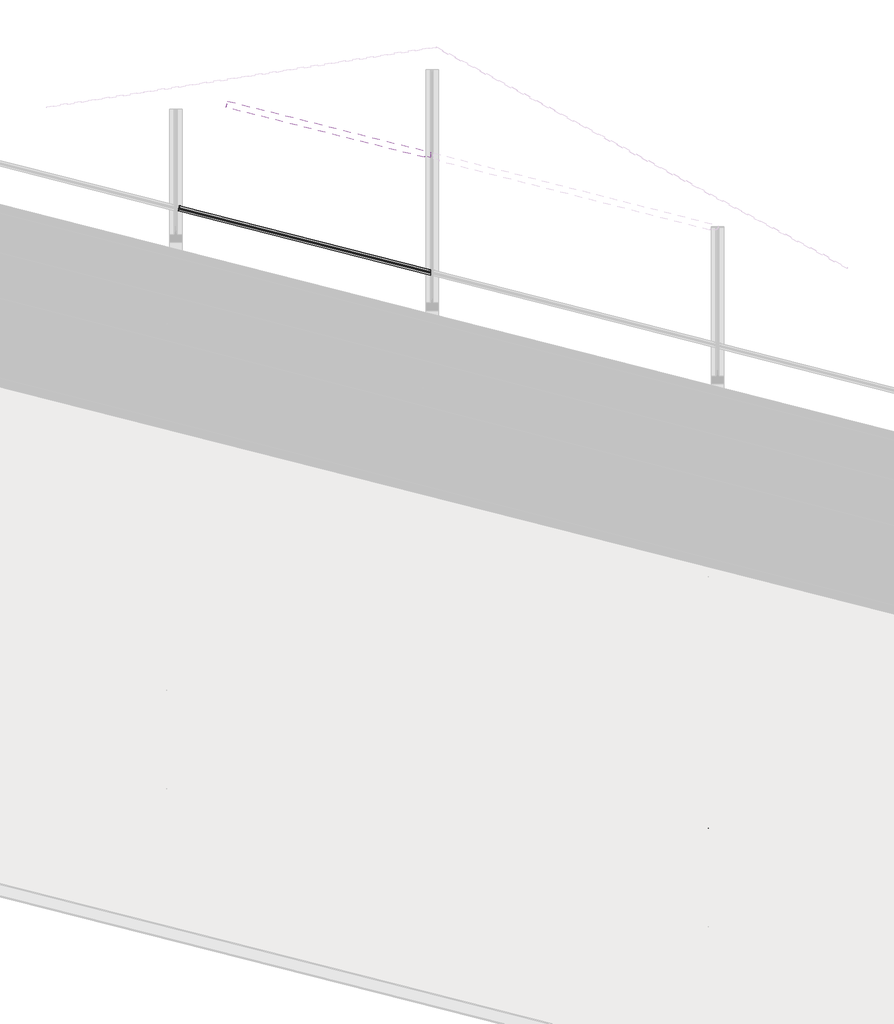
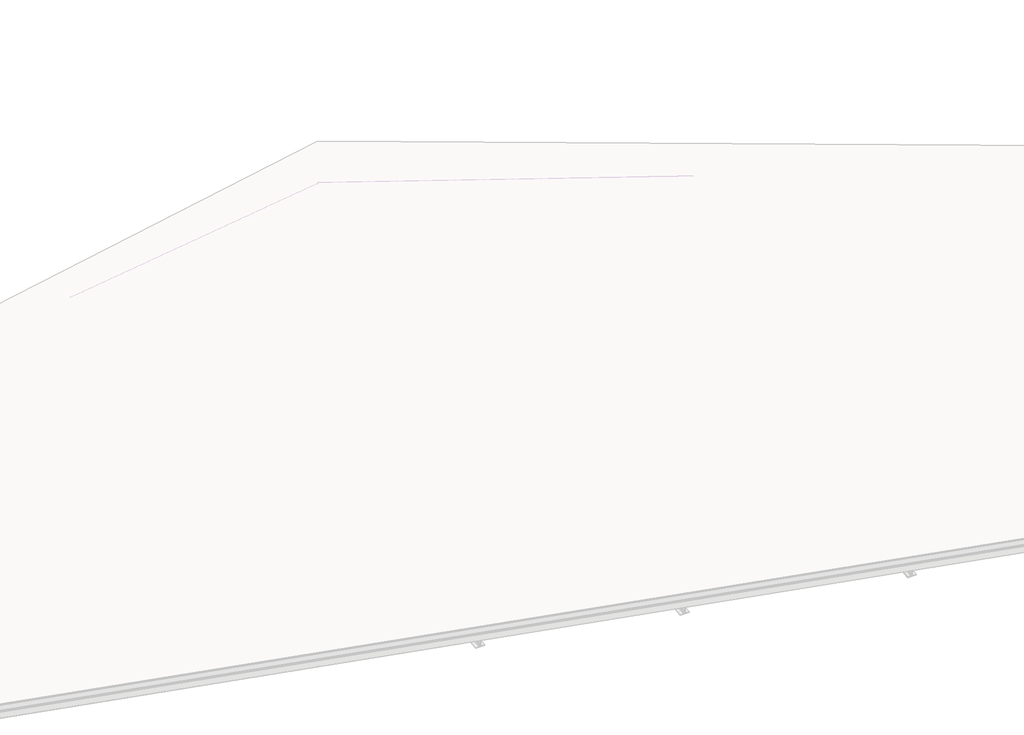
# One storey, part 6 of 10: 4 beams.
"""IFC4 building model written with IfcOpenShell, lengths in millimetres."""

from ifc_helpers import new_model, si_unit, frame, origin, place, context, project, spatial, polyline, circle_curve, ellipse_curve, element, save
from ifc_brep_helpers import plane_surface, cylinder_surface, revolved_surface, advanced_brep

model = new_model("IFC4")

# Units and contexts
model_context = context("Model", 3, world=origin())
ifc_project = project(units=[si_unit("LENGTHUNIT", "METRE", prefix="MILLI")], contexts=[model_context])

# Site, building, storey
site = spatial("IfcSite", under=ifc_project)
building = spatial("IfcBuilding", under=site)
storey = spatial("IfcBuildingStorey", under=building, Name="2 Toiture batiment", Elevation=872910.0)

# Beams
placement = place(None, origin())
element("IfcBeam", 1, ObjectType="IPE : IPE160", at=placement, inside=storey, context=model_context, shape_type="AdvancedBrep", body=[
    advanced_brep(
    [(33097.4031572, 1844.8723003, 873163.6537037), (33097.4031572, 1814.6582385, 873160.0641611), (37390.0284051, 721.8364131, 873163.3943141), (37390.0284051, 752.0504749, 873166.9838566), (33097.4031572, 1852.9583401, 873173.6819462), (37390.0284051, 760.1365147, 873177.0120991), (33187.7031572, 1813.9734126, 873300.0068727), (33187.7031572, 1816.8347422, 873277.4230183), (33098.4031572, 1839.2279107, 873280.0446711), (33097.4031572, 1839.6043729, 873279.0819152), (37390.0284051, 746.4581315, 873284.9726139), (37389.0284051, 746.5832107, 873285.9939693), (37299.7284051, 768.9777467, 873288.6048286), (37299.7284051, 767.1289578, 873303.1969189), (33187.7031572, 1803.6237537, 873307.8448858), (37299.7284051, 756.7792989, 873311.0349321), (33187.7031572, 1773.4096919, 873304.2553433), (37299.7284051, 726.5652371, 873307.4453895), (33187.7031572, 1772.4790929, 873311.6003595), (37299.7284051, 725.6346381, 873314.7904057), (33187.7031572, 1856.4639427, 873321.578071), (37299.7284051, 809.6194879, 873324.7681172), (33187.7031572, 1857.3945417, 873314.2330548), (37299.7284051, 810.5500869, 873317.423101), (33187.7031572, 1827.1804798, 873310.6435122), (37299.7284051, 780.336025, 873313.8335585), (33187.7031572, 1819.0944401, 873300.6152697), (37299.7284051, 772.2499853, 873303.805316), (33187.7031572, 1821.9568757, 873278.0226858), (37299.7284051, 774.100193, 873289.2020273), (37389.0284051, 751.705657, 873286.5911679), (37390.0284051, 751.5805777, 873285.5698126), (37390.0284051, 765.2575421, 873177.6204962), (33097.4031572, 1858.0793675, 873174.2903432), (33097.4031572, 1844.7265064, 873279.6815827), (33098.4031572, 1844.3500442, 873280.6443386), (33097.4031572, 1868.4290265, 873166.4523301), (37390.0284051, 775.6072011, 873169.7824831), (33097.4031572, 1898.6430883, 873170.0418727), (37390.0284051, 805.8212629, 873173.3720256), (33097.4031572, 1899.5736873, 873162.6968565), (37390.0284051, 806.7518619, 873166.0270094), (33097.4031572, 1815.5888375, 873152.7191449), (37390.0284051, 722.7670121, 873156.0492979)],
    [
        (0, 1),
        (1, 2),
        (2, 3),
        (3, 0),
        (4, 0, ellipse_curve(frame((33097.4031572, 1843.7404907, 873172.5868315), z_axis=(-1.0, 0.0, 0.0), x_axis=(0.0, -0.9999953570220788, 0.003047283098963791)), 9.2870764, 9.0)),
        (3, 5, ellipse_curve(frame((37390.0284051, 750.9186654, 873175.9169845), z_axis=(1.0, 0.0, 0.0), x_axis=(0.0, -0.9999953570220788, 0.0030472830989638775)), 9.2870764, 9.0)),
        (5, 4),
        (6, 7),
        (7, 8),
        (8, 9, ellipse_curve(frame((33098.4031572, 1839.3536096, 873279.0525573), z_axis=(-0.24478410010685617, -0.9618880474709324, -0.12186930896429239), x_axis=(0.9688507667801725, -0.2475267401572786, 0.00766189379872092)), 1.0314233, 1.0)),
        (9, 4),
        (5, 10),
        (10, 11, ellipse_curve(frame((37389.0284051, 746.7089102, 873285.0018509), z_axis=(-0.24478410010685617, -0.9618880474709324, -0.12186930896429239), x_axis=(0.9687750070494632, -0.2477549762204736, 0.00961548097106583)), 1.0314282, 1.0)),
        (11, 12),
        (12, 13),
        (13, 6),
        (14, 6, ellipse_curve(frame((33187.7031572, 1804.7555633, 873298.911758), z_axis=(-1.0, 0.0, 0.0), x_axis=(0.0, -0.9999953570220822, 0.003047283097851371)), 9.2870764, 9.0)),
        (13, 15, ellipse_curve(frame((37299.7284051, 757.9111085, 873302.1018042), z_axis=(1.0, 0.0, 0.0), x_axis=(0.0, -0.9999953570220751, 0.0030472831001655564)), 9.2870764, 9.0)),
        (15, 14),
        (16, 14),
        (15, 17),
        (17, 16),
        (18, 16),
        (17, 19),
        (19, 18),
        (20, 18),
        (19, 21),
        (21, 20),
        (22, 20),
        (21, 23),
        (23, 22),
        (24, 22),
        (23, 25),
        (25, 24),
        (26, 24, ellipse_curve(frame((33187.7031572, 1828.3122894, 873301.7103844), z_axis=(-1.0, 0.0, 0.0), x_axis=(0.0, -0.9999953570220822, 0.003047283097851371)), 9.2870764, 9.0)),
        (25, 27, ellipse_curve(frame((37299.7284051, 781.4678346, 873304.9004306), z_axis=(1.0, 0.0, 0.0), x_axis=(0.0, -0.9999953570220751, 0.0030472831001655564)), 9.2870764, 9.0)),
        (27, 26),
        (28, 26),
        (27, 29),
        (29, 30),
        (30, 31, ellipse_curve(frame((37389.0284051, 751.8313564, 873285.5990495), z_axis=(0.24478410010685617, 0.9618880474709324, 0.12186930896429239), x_axis=(0.9687750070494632, -0.2477549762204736, 0.00961548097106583)), 1.0314282, 1.0)),
        (31, 32),
        (32, 33),
        (33, 34),
        (34, 35, ellipse_curve(frame((33098.4031572, 1844.475743, 873279.6522248), z_axis=(0.24478410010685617, 0.9618880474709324, 0.12186930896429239), x_axis=(0.9688507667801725, -0.2475267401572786, 0.00766189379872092)), 1.0314233, 1.0)),
        (35, 28),
        (36, 33, ellipse_curve(frame((33097.4031572, 1867.2972169, 873175.3854579), z_axis=(-1.0, 0.0, 0.0), x_axis=(0.0, -0.9999953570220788, 0.003047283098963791)), 9.2870764, 9.0)),
        (32, 37, ellipse_curve(frame((37390.0284051, 774.4753915, 873178.7156109), z_axis=(1.0, 0.0, 0.0), x_axis=(0.0, -0.9999953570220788, 0.0030472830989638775)), 9.2870764, 9.0)),
        (37, 36),
        (38, 36),
        (37, 39),
        (39, 38),
        (40, 38),
        (39, 41),
        (41, 40),
        (42, 40),
        (41, 43),
        (43, 42),
        (1, 42),
        (43, 2),
        (28, 7),
        (35, 8),
        (34, 9),
        (31, 10),
        (30, 11),
        (29, 12),
    ],
    [
        plane_surface(frame((33067.3773873, 1822.302236, 873160.0408676), z_axis=(-0.030789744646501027, -0.11791812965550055, 0.992545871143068), x_axis=(0.969088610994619, -0.2467117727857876, 0.0007518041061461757))),
        revolved_surface(polyline([(37394.45187823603, 759.0103814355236, 873177.0155308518), (33097.38579783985, 1852.9627594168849, 873173.6819327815)]), (33074.3214105, 1849.6166702, 873172.5689251), (0.9690886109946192, -0.24671177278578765, 0.000751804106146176)),
        plane_surface(frame((33076.5244674, 1858.2736626, 873173.6657488), z_axis=(-0.24478410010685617, -0.9618880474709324, -0.12186930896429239), x_axis=(0.969088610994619, -0.2467117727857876, 0.0007518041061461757))),
        revolved_surface(polyline([(37304.151878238, 766.0028245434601, 873303.2003506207), (33187.685797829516, 1813.9778319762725, 873300.006859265)]), (33070.404955, 1834.6174841, 873298.8207599), (0.9690886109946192, -0.24671177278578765, 0.000751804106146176)),
        plane_surface(frame((33070.1278473, 1833.556221, 873307.7536727), z_axis=(0.030789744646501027, 0.11791812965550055, -0.992545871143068), x_axis=(0.969088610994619, -0.2467117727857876, 0.0007518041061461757))),
        plane_surface(frame((33062.9067164, 1805.1805236, 873304.1585281), z_axis=(-0.24478410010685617, -0.9618880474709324, -0.12186930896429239), x_axis=(0.969088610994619, -0.2467117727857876, 0.0007518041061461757))),
        plane_surface(frame((33062.6788722, 1804.3079294, 873311.5033675), z_axis=(-0.030789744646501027, -0.11791812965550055, 0.992545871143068), x_axis=(0.969088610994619, -0.2467117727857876, 0.0007518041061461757))),
        plane_surface(frame((33082.7511685, 1883.1827493, 873321.4966509), z_axis=(0.24478410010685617, 0.9618880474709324, 0.12186930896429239), x_axis=(0.969088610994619, -0.2467117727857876, 0.0007518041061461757))),
        plane_surface(frame((33082.9790126, 1884.0553435, 873314.1518114), z_axis=(0.030789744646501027, 0.11791812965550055, -0.992545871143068), x_axis=(0.969088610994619, -0.2467117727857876, 0.0007518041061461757))),
        revolved_surface(polyline([(37304.15187825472, 789.559550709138, 873305.9989770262), (33187.685797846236, 1837.5345581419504, 873302.8054856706)]), (33076.0349893, 1856.7409092, 873301.623754), (0.9690886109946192, -0.24671177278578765, 0.000751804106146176)),
        plane_surface(frame((33073.8319324, 1848.0839168, 873300.5269302), z_axis=(0.24478410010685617, 0.9618880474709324, 0.12186930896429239), x_axis=(0.969088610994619, -0.2467117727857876, 0.0007518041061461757))),
        revolved_surface(polyline([(37394.451878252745, 782.5671076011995, 873179.8141572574), (33097.385797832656, 1876.5194855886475, 873176.480559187)]), (33079.9514448, 1871.7400953, 873175.3719192), (0.9690886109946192, -0.24671177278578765, 0.000751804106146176)),
        plane_surface(frame((33080.2285525, 1872.8013585, 873166.4390063), z_axis=(-0.030789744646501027, -0.11791812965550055, 0.992545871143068), x_axis=(0.969088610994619, -0.2467117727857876, 0.0007518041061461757))),
        plane_surface(frame((33087.4496835, 1901.1770559, 873170.0341509), z_axis=(0.24478410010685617, 0.9618880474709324, 0.12186930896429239), x_axis=(0.969088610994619, -0.2467117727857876, 0.0007518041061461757))),
        plane_surface(frame((33087.6775276, 1902.04965, 873162.6893115), z_axis=(0.030789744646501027, 0.11791812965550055, -0.992545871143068), x_axis=(0.969088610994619, -0.2467117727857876, 0.0007518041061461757))),
        plane_surface(frame((33067.6052314, 1823.1748301, 873152.6960282), z_axis=(-0.24478410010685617, -0.9618880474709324, -0.12186930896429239), x_axis=(0.969088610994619, -0.2467117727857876, 0.0007518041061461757))),
        plane_surface(frame((33187.7031572, 12263.0191844, 874555.3701791), z_axis=(-1.0, 0.0, 0.0), x_axis=(0.0, -0.9932165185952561, -0.11627960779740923))),
        plane_surface(frame((33187.7031572, 12269.368051, 874501.1405571), z_axis=(0.0, -0.11627960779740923, 0.9932165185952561), x_axis=(0.0, -0.9932165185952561, -0.11627960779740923))),
        cylinder_surface(frame((33098.4031572, 5419.220341, 873698.1610717), z_axis=(0.0, -0.9932165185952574, -0.11627960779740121), x_axis=(0.0, -0.11627960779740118, 0.9932165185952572)), 1.0),
        plane_surface(frame((33097.4031572, 12269.4843306, 874500.1473406), z_axis=(-1.0, 0.0, 0.0), x_axis=(0.0, -0.9932165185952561, -0.1162796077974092))),
        plane_surface(frame((37390.0284051, 9923.9047847, 873973.5564588), z_axis=(1.0000000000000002, 0.0, 0.0), x_axis=(0.0, -0.9932725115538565, -0.11580033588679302))),
        cylinder_surface(frame((37389.0284051, 3683.1614087, 873627.3471606), z_axis=(0.0, -0.9932725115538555, -0.11580033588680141), x_axis=(1.0, 0.0, 0.0)), 1.0),
        plane_surface(frame((37389.0284051, 9879.9238171, 874350.8013587), z_axis=(0.0, -0.11580033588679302, 0.9932725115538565), x_axis=(0.0, -0.9932725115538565, -0.11580033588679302))),
        plane_surface(frame((37299.7284051, 9879.9238171, 874350.8013587), z_axis=(1.0000000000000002, 0.0, 0.0), x_axis=(0.0, -0.9932725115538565, -0.11580033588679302))),
    ],
    [
        (0, [[1, 2, 3, 4]]),
        (1, [[5, -4, 6, 7]]),
        (2, [[8, 9, 10, 11, -7, 12, 13, 14, 15, 16]]),
        (3, [[17, -16, 18, 19]]),
        (4, [[20, -19, 21, 22]]),
        (5, [[23, -22, 24, 25]]),
        (6, [[26, -25, 27, 28]]),
        (7, [[29, -28, 30, 31]]),
        (8, [[32, -31, 33, 34]]),
        (9, [[35, -34, 36, 37]]),
        (10, [[38, -37, 39, 40, 41, 42, 43, 44, 45, 46]]),
        (11, [[47, -43, 48, 49]]),
        (12, [[50, -49, 51, 52]]),
        (13, [[53, -52, 54, 55]]),
        (14, [[56, -55, 57, 58]]),
        (15, [[59, -58, 60, -2]]),
        (16, [[61, -8, -17, -20, -23, -26, -29, -32, -35, -38]]),
        (17, [[-61, -46, 62, -9]]),
        (18, [[-62, -45, 63, -10]]),
        (19, [[-63, -44, -47, -50, -53, -56, -59, -1, -5, -11]]),
        (20, [[64, -12, -6, -3, -60, -57, -54, -51, -48, -42]]),
        (21, [[-64, -41, 65, -13]]),
        (22, [[-65, -40, 66, -14]]),
        (23, [[-66, -39, -36, -33, -30, -27, -24, -21, -18, -15]]),
    ],
),
])
element("IfcBeam", 2, ObjectType="IPE : IPE160", at=placement, inside=storey, context=model_context, shape_type="AdvancedBrep", body=[
    advanced_brep(
    [(37390.0284051, 2764.319279, 873401.5203916), (37390.0284051, 2794.5333408, 873405.1113942), (33097.4031572, 3887.3551662, 873402.6490879), (33097.4031572, 3857.1411044, 873399.0580854), (37390.0284051, 2802.6193806, 873415.1400262), (33097.4031572, 3895.441206, 873412.67772), (37390.0284051, 2788.9416324, 873523.094854), (37389.0284051, 2789.0667361, 873524.1162122), (37299.7284051, 2811.4635241, 873526.7273341), (37299.7284051, 2809.6118237, 873541.3423127), (33187.7031572, 3856.4562785, 873538.983601), (33187.7031572, 3859.2995913, 873516.5420897), (33098.4031572, 3881.6950117, 873519.1640061), (33097.4031572, 3882.0714999, 873518.2012532), (37299.7284051, 2799.2621648, 873549.1798246), (33187.7031572, 3846.1066196, 873546.8211129), (37299.7284051, 2769.0481029, 873545.588822), (33187.7031572, 3815.8925578, 873543.2301103), (37299.7284051, 2768.117504, 873552.9337923), (33187.7031572, 3814.9619588, 873550.5750806), (37299.7284051, 2852.1023537, 873562.9155621), (33187.7031572, 3898.9468086, 873560.5568504), (37299.7284051, 2853.0329527, 873555.5705918), (33187.7031572, 3899.8774075, 873553.2118801), (37299.7284051, 2822.8188909, 873551.9795893), (33187.7031572, 3869.6633457, 873549.6208776), (37299.7284051, 2814.7328511, 873541.9509572), (33187.7031572, 3861.577306, 873539.5922455), (37390.0284051, 2794.0641095, 873523.6920562), (37390.0284051, 2807.740408, 873415.7486707), (33097.4031572, 3900.5622334, 873413.2863645), (33097.4031572, 3887.1936642, 873518.8009243), (33098.4031572, 3886.817176, 873519.7636772), (33187.7031572, 3864.4217556, 873517.1417608), (37299.7284051, 2816.5860013, 873527.3245363), (37389.0284051, 2794.1892132, 873524.7134145), (37390.0284051, 2818.090067, 873407.9111589), (33097.4031572, 3910.9118923, 873405.4488526), (37390.0284051, 2848.3041288, 873411.5021614), (33097.4031572, 3941.1259542, 873409.0398552), (37390.0284051, 2849.2347278, 873404.1571911), (33097.4031572, 3942.0565532, 873401.6948849), (37390.0284051, 2765.249878, 873394.1754213), (33097.4031572, 3858.0717034, 873391.7131151)],
    [
        (0, 1),
        (1, 2),
        (2, 3),
        (3, 0),
        (1, 4, ellipse_curve(frame((37390.0284051, 2793.4015312, 873414.0444661), z_axis=(1.0, 0.0, 0.0), x_axis=(0.0, -0.9999974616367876, 0.0022531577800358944)), 9.2870752, 9.0)),
        (4, 5),
        (5, 2, ellipse_curve(frame((33097.4031572, 3886.2233566, 873411.5821599), z_axis=(-1.0, 0.0, 0.0), x_axis=(0.0, -0.9999974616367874, 0.002253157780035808)), 9.2870752, 9.0)),
        (4, 6),
        (6, 7, ellipse_curve(frame((37389.0284051, 2789.1924363, 873523.1240939), z_axis=(-0.24480723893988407, -0.9618821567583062, -0.12186932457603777), x_axis=(0.9687691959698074, -0.24777784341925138, 0.009611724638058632)), 1.0314344, 1.0)),
        (7, 8),
        (8, 9),
        (9, 10),
        (10, 11),
        (11, 12),
        (12, 13, ellipse_curve(frame((33098.4031572, 3881.8207113, 873518.1718924), z_axis=(-0.24480723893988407, -0.9618821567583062, -0.12186932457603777), x_axis=(0.9688449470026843, -0.24754962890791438, 0.007658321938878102)), 1.0314296, 1.0)),
        (13, 5),
        (9, 14, ellipse_curve(frame((37299.7284051, 2800.3939743, 873540.2467526), z_axis=(1.0, 0.0, 0.0), x_axis=(0.0, -0.9999974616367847, 0.0022531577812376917)), 9.2870752, 9.0)),
        (14, 15),
        (15, 10, ellipse_curve(frame((33187.7031572, 3847.2384292, 873537.8880409), z_axis=(-1.0, 0.0, 0.0), x_axis=(0.0, -0.99999746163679, 0.002253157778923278)), 9.2870752, 9.0)),
        (14, 16),
        (16, 17),
        (17, 15),
        (16, 18),
        (18, 19),
        (19, 17),
        (18, 20),
        (20, 21),
        (21, 19),
        (20, 22),
        (22, 23),
        (23, 21),
        (22, 24),
        (24, 25),
        (25, 23),
        (24, 26, ellipse_curve(frame((37299.7284051, 2823.9507005, 873543.0465173), z_axis=(1.0, 0.0, 0.0), x_axis=(0.0, -0.9999974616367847, 0.0022531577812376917)), 9.2870752, 9.0)),
        (26, 27),
        (27, 25, ellipse_curve(frame((33187.7031572, 3870.7951553, 873540.6878056), z_axis=(-1.0, 0.0, 0.0), x_axis=(0.0, -0.99999746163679, 0.002253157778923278)), 9.2870752, 9.0)),
        (28, 29),
        (29, 30),
        (30, 31),
        (31, 32, ellipse_curve(frame((33098.4031572, 3886.9428756, 873518.7715636), z_axis=(0.24480723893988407, 0.9618821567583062, 0.12186932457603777), x_axis=(0.9688449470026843, -0.24754962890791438, 0.007658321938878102)), 1.0314296, 1.0)),
        (32, 33),
        (33, 27),
        (26, 34),
        (34, 35),
        (35, 28, ellipse_curve(frame((37389.0284051, 2794.3149134, 873523.7212961), z_axis=(0.24480723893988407, 0.9618821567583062, 0.12186932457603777), x_axis=(0.9687691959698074, -0.24777784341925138, 0.009611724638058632)), 1.0314344, 1.0)),
        (29, 36, ellipse_curve(frame((37390.0284051, 2816.9582574, 873416.8442308), z_axis=(1.0, 0.0, 0.0), x_axis=(0.0, -0.9999974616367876, 0.0022531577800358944)), 9.2870752, 9.0)),
        (36, 37),
        (37, 30, ellipse_curve(frame((33097.4031572, 3909.7800828, 873414.3819246), z_axis=(-1.0, 0.0, 0.0), x_axis=(0.0, -0.9999974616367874, 0.002253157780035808)), 9.2870752, 9.0)),
        (36, 38),
        (38, 39),
        (39, 37),
        (38, 40),
        (40, 41),
        (41, 39),
        (40, 42),
        (42, 43),
        (43, 41),
        (42, 0),
        (3, 43),
        (28, 6),
        (35, 7),
        (34, 8),
        (33, 11),
        (32, 12),
        (31, 13),
    ],
    [
        plane_surface(frame((33067.3474029, 3864.7927353, 873399.040845), z_axis=(-0.030601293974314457, -0.11796610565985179, 0.9925459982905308), x_axis=(0.9690887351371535, -0.24671180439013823, 0.000555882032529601))),
        revolved_surface(polyline([(37394.4520821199, 2801.4931954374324, 873415.1425637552), (33097.38601048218, 3895.445571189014, 873412.6777101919)]), (33074.2938048, 3892.106564, 873411.5689041), (0.9690887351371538, -0.2467118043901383, 0.0005558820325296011)),
        plane_surface(frame((33076.49707, 3900.7635034, 873412.665728), z_axis=(-0.24480723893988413, -0.9618821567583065, -0.1218693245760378), x_axis=(0.9690887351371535, -0.24671180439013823, 0.000555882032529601))),
        revolved_surface(polyline([(37304.152082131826, 2808.485638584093, 873541.3448501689), (33187.68601048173, 3856.460643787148, 873538.9835911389)]), (33070.4013202, 3877.1012754, 873537.820755), (0.9690887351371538, -0.2467118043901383, 0.0005558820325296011)),
        plane_surface(frame((33070.1259086, 3876.0395804, 873546.753669), z_axis=(0.030601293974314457, 0.11796610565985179, -0.9925459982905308), x_axis=(0.9690887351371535, -0.24671180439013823, 0.000555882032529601))),
        plane_surface(frame((33062.904095, 3847.6640568, 873543.158524), z_axis=(-0.24480723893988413, -0.9618821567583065, -0.1218693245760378), x_axis=(0.9690887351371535, -0.24671180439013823, 0.000555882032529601))),
        plane_surface(frame((33062.6776454, 3846.7911076, 873550.5033643), z_axis=(-0.030601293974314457, -0.11796610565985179, 0.9925459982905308), x_axis=(0.9690887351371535, -0.24671180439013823, 0.000555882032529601))),
        plane_surface(frame((33082.751839, 3925.6654445, 873560.496649), z_axis=(0.24480723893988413, 0.9618821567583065, 0.1218693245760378), x_axis=(0.9690887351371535, -0.24671180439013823, 0.000555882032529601))),
        plane_surface(frame((33082.9782886, 3926.5383936, 873553.1518086), z_axis=(0.030601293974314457, 0.11796610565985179, -0.9925459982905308), x_axis=(0.9690887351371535, -0.24671180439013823, 0.000555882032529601))),
        revolved_surface(polyline([(37304.152082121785, 2832.042364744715, 873544.144614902), (33187.68601049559, 3880.0173699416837, 873541.7833558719)]), (33076.0318867, 3899.224565, 873540.6237495), (0.9690887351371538, -0.2467118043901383, 0.0005558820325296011)),
        plane_surface(frame((33073.8286216, 3890.5676256, 873539.5269256), z_axis=(0.24480723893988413, 0.9618821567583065, 0.1218693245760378), x_axis=(0.9690887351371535, -0.24671180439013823, 0.000555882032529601))),
        revolved_surface(polyline([(37394.45208210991, 2825.04992159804, 873417.9423283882), (33097.38601047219, 3919.002297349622, 873415.477474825)]), (33079.9243713, 3914.2298536, 873414.3718985), (0.9690887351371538, -0.2467118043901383, 0.0005558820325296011)),
        plane_surface(frame((33080.199783, 3915.2915486, 873405.4389845), z_axis=(-0.030601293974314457, -0.11796610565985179, 0.9925459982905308), x_axis=(0.9690887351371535, -0.24671180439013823, 0.000555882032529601))),
        plane_surface(frame((33087.4215965, 3943.6670722, 873409.0341296), z_axis=(0.24480723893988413, 0.9618821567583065, 0.1218693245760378), x_axis=(0.9690887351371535, -0.24671180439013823, 0.000555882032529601))),
        plane_surface(frame((33087.6480461, 3944.5400214, 873401.6892892), z_axis=(0.030601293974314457, 0.11796610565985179, -0.9925459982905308), x_axis=(0.9690887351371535, -0.24671180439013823, 0.000555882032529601))),
        plane_surface(frame((33067.5738525, 3865.6656845, 873391.6960046), z_axis=(-0.24480723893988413, -0.9618821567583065, -0.1218693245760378), x_axis=(0.9690887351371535, -0.24671180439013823, 0.000555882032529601))),
        plane_surface(frame((37390.0284051, 9923.9047847, 873973.5564588), z_axis=(1.0000000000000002, 0.0, 0.0), x_axis=(0.0, -0.9932725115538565, -0.11580033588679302))),
        cylinder_surface(frame((37389.0284051, 3683.1614087, 873627.3471606), z_axis=(0.0, -0.9932725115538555, -0.11580033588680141), x_axis=(1.0, 0.0, 0.0)), 1.0),
        plane_surface(frame((37389.0284051, 9879.9238171, 874350.8013587), z_axis=(0.0, -0.11580033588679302, 0.9932725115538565), x_axis=(0.0, -0.9932725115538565, -0.11580033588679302))),
        plane_surface(frame((37299.7284051, 9879.9238171, 874350.8013587), z_axis=(1.0000000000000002, 0.0, 0.0), x_axis=(0.0, -0.9932725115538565, -0.11580033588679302))),
        plane_surface(frame((33187.7031572, 12263.0191844, 874555.3701791), z_axis=(-1.0, 0.0, 0.0), x_axis=(0.0, -0.9932165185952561, -0.11627960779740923))),
        plane_surface(frame((33187.7031572, 12269.368051, 874501.1405571), z_axis=(0.0, -0.11627960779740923, 0.9932165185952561), x_axis=(0.0, -0.9932165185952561, -0.11627960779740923))),
        cylinder_surface(frame((33098.4031572, 5419.220341, 873698.1610717), z_axis=(0.0, -0.9932165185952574, -0.11627960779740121), x_axis=(0.0, -0.11627960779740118, 0.9932165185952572)), 1.0),
        plane_surface(frame((33097.4031572, 12269.4843306, 874500.1473406), z_axis=(-1.0, 0.0, 0.0), x_axis=(0.0, -0.9932165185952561, -0.1162796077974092))),
    ],
    [
        (0, [[1, 2, 3, 4]]),
        (1, [[5, 6, 7, -2]]),
        (2, [[8, 9, 10, 11, 12, 13, 14, 15, 16, -6]]),
        (3, [[17, 18, 19, -12]]),
        (4, [[20, 21, 22, -18]]),
        (5, [[23, 24, 25, -21]]),
        (6, [[26, 27, 28, -24]]),
        (7, [[29, 30, 31, -27]]),
        (8, [[32, 33, 34, -30]]),
        (9, [[35, 36, 37, -33]]),
        (10, [[38, 39, 40, 41, 42, 43, -36, 44, 45, 46]]),
        (11, [[47, 48, 49, -39]]),
        (12, [[50, 51, 52, -48]]),
        (13, [[53, 54, 55, -51]]),
        (14, [[56, 57, 58, -54]]),
        (15, [[59, -4, 60, -57]]),
        (16, [[61, -8, -5, -1, -59, -56, -53, -50, -47, -38]]),
        (17, [[-61, -46, 62, -9]]),
        (18, [[-62, -45, 63, -10]]),
        (19, [[-63, -44, -35, -32, -29, -26, -23, -20, -17, -11]]),
        (20, [[64, -13, -19, -22, -25, -28, -31, -34, -37, -43]]),
        (21, [[-64, -42, 65, -14]]),
        (22, [[-65, -41, 66, -15]]),
        (23, [[-66, -40, -49, -52, -55, -58, -60, -3, -7, -16]]),
    ],
),
])
element("IfcBeam", 3, ObjectType="IPE : IPE160", at=placement, inside=storey, context=model_context, shape_type="AdvancedBrep", body=[
    advanced_brep(
    [(29209.4174148, 10151.6110113, 874029.7413302), (29216.6363422, 10179.9872708, 874033.3364635), (29218.5912635, 10187.5756366, 874043.3661688), (29216.069255, 10176.6830422, 874134.40515), (29217.294215, 10181.4986806, 874134.9634879), (29219.8148105, 10192.3851721, 874043.9755134), (29222.2646585, 10202.1111341, 874036.1394489), (29229.4835859, 10230.4873936, 874039.7345823), (29229.6870557, 10231.3661831, 874032.3897658), (29209.6208846, 10152.4898008, 874022.3965137), (33048.0031572, 9176.3845155, 874019.3963031), (33048.0031572, 9206.5948071, 874023.0108916), (33048.0031572, 9214.6798378, 874033.0458653), (33048.0031572, 9201.0139878, 874140.9099323), (33047.0031572, 9201.1389738, 874141.9313947), (32957.7031572, 9223.524873, 874144.5521965), (32957.7031572, 9221.6271016, 874159.5312388), (29290.6644129, 10153.2705725, 874169.413945), (29290.6644129, 10157.9807407, 874132.2367554), (29290.6644129, 10142.922205, 874177.2434072), (32957.7031572, 9211.2787341, 874167.360701), (29290.6644129, 10112.7119135, 874173.6288187), (32957.7031572, 9181.0684426, 874163.7461125), (29290.6644129, 10111.7814306, 874180.9730868), (32957.7031572, 9180.1379597, 874171.0903806), (29290.6644129, 10195.7558003, 874191.0204174), (32957.7031572, 9264.1123294, 874181.1377112), (29290.6644129, 10196.6862832, 874183.6761493), (32957.7031572, 9265.0428123, 874173.7934431), (29290.6644129, 10166.4759916, 874180.0615609), (32957.7031572, 9234.8325207, 874170.1788547), (29290.6644129, 10158.3909609, 874170.0265871), (32957.7031572, 9226.74749, 874160.1438809), (29290.6644129, 10163.1034978, 874132.8307015), (32957.7031572, 9228.6469067, 874145.1518523), (33047.0031572, 9206.2610075, 874142.5310506), (33048.0031572, 9206.1360215, 874141.5095882), (33048.0031572, 9219.8002262, 874033.6585074), (33048.0031572, 9230.1485937, 874025.8290453), (33048.0031572, 9260.3588852, 874029.4436337), (33048.0031572, 9261.2893681, 874022.0993656), (33048.0031572, 9177.3149984, 874012.052035)],
    [
        (0, 1),
        (1, 2, circle_curve(frame((29216.3888788, 10178.9184726, 874042.2693484), z_axis=(0.9692065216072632, -0.2462354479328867, -0.002612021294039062), x_axis=(0.24470940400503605, 0.961907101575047, 0.12186892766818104)), 9.0)),
        (2, 3),
        (3, 4),
        (4, 5),
        (5, 6, circle_curve(frame((29222.0171951, 10201.042336, 874045.0723338), z_axis=(0.9692065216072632, -0.2462354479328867, -0.002612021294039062), x_axis=(0.24470940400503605, 0.961907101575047, 0.12186892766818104)), 9.0)),
        (6, 7),
        (7, 8),
        (8, 9),
        (9, 0),
        (0, 10),
        (10, 11),
        (11, 1),
        (11, 12, ellipse_curve(frame((33048.0031572, 9205.4631387, 874031.9431095), z_axis=(1.0, 0.0, 0.0), x_axis=(0.0, -0.9999437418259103, -0.0106072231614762)), 9.2859466, 9.0)),
        (12, 2),
        (12, 13),
        (13, 14, ellipse_curve(frame((33047.0031572, 9201.2646698, 874140.9392806), z_axis=(-0.24470940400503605, -0.961907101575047, -0.121868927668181), x_axis=(0.9688696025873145, -0.24745268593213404, 0.00767211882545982)), 1.0314032, 1.0)),
        (14, 15),
        (15, 16),
        (16, 17),
        (17, 18),
        (18, 3),
        (19, 17, ellipse_curve(frame((29290.6644129, 10144.0538734, 874168.3111892), z_axis=(-1.0, 0.0, 0.0), x_axis=(0.0, -0.9999437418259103, -0.010607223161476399)), 9.2859466, 9.0)),
        (16, 20, ellipse_curve(frame((32957.7031572, 9212.4104025, 874158.428483), z_axis=(1.0, 0.0, 0.0), x_axis=(0.0, -0.9999437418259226, -0.010607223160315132)), 9.2859466, 9.0)),
        (20, 19),
        (21, 19),
        (20, 22),
        (22, 21),
        (23, 21),
        (22, 24),
        (24, 23),
        (25, 23),
        (24, 26),
        (26, 25),
        (27, 25),
        (26, 28),
        (28, 27),
        (29, 27),
        (28, 30),
        (30, 29),
        (31, 29, ellipse_curve(frame((29290.6644129, 10167.60766, 874171.1293429), z_axis=(-1.0, 0.0, 0.0), x_axis=(0.0, -0.9999437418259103, -0.010607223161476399)), 9.2859466, 9.0)),
        (30, 32, ellipse_curve(frame((32957.7031572, 9235.9641891, 874161.2466367), z_axis=(1.0, 0.0, 0.0), x_axis=(0.0, -0.9999437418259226, -0.010607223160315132)), 9.2859466, 9.0)),
        (32, 31),
        (4, 33),
        (33, 31),
        (32, 34),
        (34, 35),
        (35, 36, ellipse_curve(frame((33047.0031572, 9206.3867035, 874141.5389364), z_axis=(0.24470940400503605, 0.961907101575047, 0.121868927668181), x_axis=(0.9688696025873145, -0.24745268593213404, 0.00767211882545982)), 1.0314032, 1.0)),
        (36, 37),
        (37, 5),
        (37, 38, ellipse_curve(frame((33048.0031572, 9229.0169253, 874034.7612632), z_axis=(1.0, 0.0, 0.0), x_axis=(0.0, -0.9999437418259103, -0.0106072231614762)), 9.2859466, 9.0)),
        (38, 6),
        (38, 39),
        (39, 7),
        (39, 40),
        (40, 8),
        (40, 41),
        (41, 9),
        (41, 10),
        (33, 18),
        (36, 13),
        (35, 14),
        (34, 15),
    ],
    [
        plane_surface(frame((29217.4542959, 10182.4275643, 874106.796561), z_axis=(-0.9692065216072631, 0.24623544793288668, 0.0026120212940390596), x_axis=(-0.0274959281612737, -0.1187553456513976, 0.9925427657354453))),
        plane_surface(frame((29209.4174148, 10151.6110113, 874029.7413302), z_axis=(-0.02749592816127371, -0.11875534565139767, 0.9925427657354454), x_axis=(0.9692065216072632, -0.2462354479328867, -0.002612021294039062))),
        revolved_surface(polyline([(33052.42178554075, 9213.557246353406, 874033.0339570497), (29218.591263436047, 10187.575636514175, 874043.3661687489)]), (29216.3888788, 10178.9184726, 874042.2693484), (0.9692065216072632, -0.2462354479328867, -0.002612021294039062)),
        plane_surface(frame((29218.5912635, 10187.5756366, 874043.3661688), z_axis=(-0.24470940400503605, -0.961907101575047, -0.121868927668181), x_axis=(0.9692065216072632, -0.2462354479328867, -0.002612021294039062))),
        revolved_surface(polyline([(32962.121785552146, 9220.50451019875, 874159.5193305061), (29290.65055381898, 10153.274093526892, 874169.4139822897)]), (29212.8913968, 10163.8127927, 874168.5207882), (0.9692065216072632, -0.2462354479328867, -0.002612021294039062)),
        plane_surface(frame((29212.6439334, 10162.7439946, 874177.4536731), z_axis=(0.02749592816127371, 0.11875534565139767, -0.9925427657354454), x_axis=(0.9692065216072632, -0.2462354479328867, -0.002612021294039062))),
        plane_surface(frame((29205.425006, 10134.3677351, 874173.8585398), z_axis=(-0.24470940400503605, -0.961907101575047, -0.121868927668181), x_axis=(0.9692065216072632, -0.2462354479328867, -0.002612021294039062))),
        plane_surface(frame((29205.2215361, 10133.4889455, 874181.2033562), z_axis=(-0.02749592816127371, -0.11875534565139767, 0.9925427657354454), x_axis=(0.9692065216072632, -0.2462354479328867, -0.002612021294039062))),
        plane_surface(frame((29225.2877072, 10212.3653278, 874191.1966083), z_axis=(0.24470940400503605, 0.961907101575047, 0.121868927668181), x_axis=(0.9692065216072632, -0.2462354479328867, -0.002612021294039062))),
        plane_surface(frame((29225.4911771, 10213.2441174, 874183.8517918), z_axis=(0.02749592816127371, 0.11875534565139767, -0.9925427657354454), x_axis=(0.9692065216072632, -0.2462354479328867, -0.002612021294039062))),
        revolved_surface(polyline([(32962.12178554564, 9244.058296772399, 874162.3374842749), (29290.650553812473, 10176.82788010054, 874172.2321360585)]), (29218.519713, 10185.936656, 874171.3237736), (0.9692065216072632, -0.2462354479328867, -0.002612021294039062)),
        plane_surface(frame((29216.3173284, 10177.2794921, 874170.2269532), z_axis=(0.24470940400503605, 0.961907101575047, 0.121868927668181), x_axis=(0.9692065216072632, -0.2462354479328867, -0.002612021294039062))),
        revolved_surface(polyline([(33052.42178556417, 9237.111033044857, 874035.8521108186), (29224.219579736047, 10209.699499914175, 874046.169154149)]), (29222.0171951, 10201.042336, 874045.0723338), (0.9692065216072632, -0.2462354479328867, -0.002612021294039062)),
        plane_surface(frame((29222.2646585, 10202.1111341, 874036.1394489), z_axis=(-0.02749592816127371, -0.11875534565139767, 0.9925427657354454), x_axis=(0.9692065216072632, -0.2462354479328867, -0.002612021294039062))),
        plane_surface(frame((29229.4835859, 10230.4873936, 874039.7345823), z_axis=(0.24470940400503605, 0.961907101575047, 0.121868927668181), x_axis=(0.9692065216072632, -0.2462354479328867, -0.002612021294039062))),
        plane_surface(frame((29229.6870557, 10231.3661831, 874032.3897658), z_axis=(0.02749592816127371, 0.11875534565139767, -0.9925427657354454), x_axis=(0.9692065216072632, -0.2462354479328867, -0.002612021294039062))),
        plane_surface(frame((29209.6208846, 10152.4898008, 874022.3965137), z_axis=(-0.24470940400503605, -0.961907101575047, -0.121868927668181), x_axis=(0.9692065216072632, -0.2462354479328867, -0.002612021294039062))),
        plane_surface(frame((29290.6644129, 11664.8518841, 874361.9131692), z_axis=(-1.0, 0.0, 0.0), x_axis=(0.0, -0.9933456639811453, -0.11517114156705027))),
        plane_surface(frame((29290.6644129, 11671.1402284, 874307.6764959), z_axis=(0.0, -0.11517114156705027, 0.9933456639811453), x_axis=(0.0, -0.9933456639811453, -0.11517114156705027))),
        plane_surface(frame((33048.0031572, 12313.5310461, 874123.9169234), z_axis=(1.0, 0.0, 0.0), x_axis=(0.0, -0.9932165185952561, -0.1162796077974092))),
        cylinder_surface(frame((33047.0031572, 5419.220341, 873698.1610717), z_axis=(0.0, -0.9932165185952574, -0.11627960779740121), x_axis=(1.0000000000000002, 0.0, 0.0)), 1.0),
        plane_surface(frame((33047.0031572, 12269.368051, 874501.1405571), z_axis=(0.0, -0.11627960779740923, 0.9932165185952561), x_axis=(0.0, -0.9932165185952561, -0.11627960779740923))),
        plane_surface(frame((32957.7031572, 12269.368051, 874501.1405571), z_axis=(1.0, 0.0, 0.0), x_axis=(0.0, -0.9932165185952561, -0.11627960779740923))),
    ],
    [
        (0, [[1, 2, 3, 4, 5, 6, 7, 8, 9, 10]]),
        (1, [[-1, 11, 12, 13]]),
        (2, [[-2, -13, 14, 15]]),
        (3, [[-3, -15, 16, 17, 18, 19, 20, 21, 22]]),
        (4, [[23, -20, 24, 25]]),
        (5, [[26, -25, 27, 28]]),
        (6, [[29, -28, 30, 31]]),
        (7, [[32, -31, 33, 34]]),
        (8, [[35, -34, 36, 37]]),
        (9, [[38, -37, 39, 40]]),
        (10, [[41, -40, 42, 43]]),
        (11, [[-5, 44, 45, -43, 46, 47, 48, 49, 50]]),
        (12, [[-6, -50, 51, 52]]),
        (13, [[-7, -52, 53, 54]]),
        (14, [[-8, -54, 55, 56]]),
        (15, [[-9, -56, 57, 58]]),
        (16, [[-10, -58, 59, -11]]),
        (17, [[60, -21, -23, -26, -29, -32, -35, -38, -41, -45]]),
        (18, [[-60, -44, -4, -22]]),
        (19, [[61, -16, -14, -12, -59, -57, -55, -53, -51, -49]]),
        (20, [[-61, -48, 62, -17]]),
        (21, [[-62, -47, 63, -18]]),
        (22, [[-63, -46, -42, -39, -36, -33, -30, -27, -24, -19]]),
    ],
),
])
element("IfcBeam", 4, ObjectType="IPE : IPE160", at=placement, inside=storey, context=model_context, shape_type="AdvancedBrep", body=[
    advanced_brep(
    [(29944.6527232, 11743.0303847, 874235.8411467), (29951.8167843, 11771.4205454, 874239.4362824), (29953.7547492, 11779.0132508, 874249.4659941), (29950.2541937, 11763.9089631, 874375.7175153), (29947.8208671, 11754.1788585, 874383.5535849), (29940.656806, 11725.7886978, 874379.9584492), (29940.4531574, 11724.9099892, 874387.3032704), (29960.3668188, 11803.8250124, 874397.2965289), (29960.5704674, 11804.7037209, 874389.9517077), (29953.4064063, 11776.3135602, 874386.356572), (29951.4684414, 11768.7208548, 874376.3268603), (29954.9689969, 11783.8251425, 874250.0753391), (29957.4023234, 11793.555247, 874242.2392695), (29964.5663846, 11821.9454078, 874245.8344052), (29964.7700332, 11822.8241164, 874238.489584), (29944.8563718, 11743.9090932, 874228.4963255), (33048.0031572, 10960.8746507, 874228.3128826), (33048.0031572, 10991.0704121, 874231.9253972), (33048.0031572, 10999.1515542, 874241.9598101), (33048.0031572, 10985.4921774, 874349.8255314), (33047.0031572, 10985.6151986, 874350.8467638), (32957.7031572, 11007.8202382, 874353.4463916), (32957.7031572, 11005.9238431, 874368.4218938), (32957.7031572, 10995.5804528, 874376.2520605), (32957.7031572, 10965.3846914, 874372.6395459), (32957.7031572, 10964.4546561, 874379.983873), (32957.7031572, 11048.3886369, 874390.0254391), (32957.7031572, 11049.3186722, 874382.6811119), (32957.7031572, 11019.1229108, 874379.0685973), (32957.7031572, 11011.0417687, 874369.0341844), (32957.7031572, 11012.9398005, 874354.0457581), (33047.0031572, 10990.7347609, 874351.4461303), (33048.0031572, 10990.6117397, 874350.4248979), (33048.0031572, 11004.2694799, 874242.5721007), (33048.0031572, 11014.6128701, 874234.741934), (33048.0031572, 11044.8086315, 874238.3544486), (33048.0031572, 11045.7386668, 874231.0101214), (33048.0031572, 10961.8046861, 874220.9685554)],
    [
        (0, 1),
        (1, 2, circle_curve(frame((29951.5691035, 11770.3518458, 874248.369173), z_axis=(0.9696735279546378, -0.24439254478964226, -0.002352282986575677), x_axis=(0.24284952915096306, 0.9623783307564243, 0.12186900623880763)), 9.0)),
        (2, 3),
        (3, 4, circle_curve(frame((29948.068548, 11755.2475581, 874374.6206942), z_axis=(0.9696735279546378, -0.24439254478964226, -0.002352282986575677), x_axis=(0.24284952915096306, 0.9623783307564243, 0.12186900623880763)), 9.0)),
        (4, 5),
        (5, 6),
        (6, 7),
        (7, 8),
        (8, 9),
        (9, 10, circle_curve(frame((29953.6540871, 11777.3822598, 874377.4236813), z_axis=(0.9696735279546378, -0.24439254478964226, -0.002352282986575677), x_axis=(0.24284952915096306, 0.9623783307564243, 0.12186900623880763)), 9.0)),
        (10, 11),
        (11, 12, circle_curve(frame((29957.1546426, 11792.4865474, 874251.1721601), z_axis=(0.9696735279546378, -0.24439254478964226, -0.002352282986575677), x_axis=(0.24284952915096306, 0.9623783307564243, 0.12186900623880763)), 9.0)),
        (12, 13),
        (13, 14),
        (14, 15),
        (15, 0),
        (0, 16),
        (16, 17),
        (17, 1),
        (17, 18, ellipse_curve(frame((33048.0031572, 10989.939288, 874240.857687), z_axis=(1.0, 0.0, 0.0), x_axis=(0.0, -0.99995368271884, -0.009624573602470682)), 9.2814744, 9.0)),
        (18, 2),
        (18, 19),
        (19, 20, ellipse_curve(frame((33047.0031572, 10985.7408341, 874349.8546426), z_axis=(-0.242849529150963, -0.9623783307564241, -0.1218690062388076), x_axis=(0.969335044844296, -0.2456137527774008, 0.007965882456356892)), 1.0309056, 1.0)),
        (20, 21),
        (21, 22),
        (22, 3),
        (22, 23, ellipse_curve(frame((32957.7031572, 10996.7115769, 874367.3197707), z_axis=(1.0, 0.0, 0.0), x_axis=(0.0, -0.9999536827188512, -0.009624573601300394)), 9.2814744, 9.0)),
        (23, 4),
        (23, 24),
        (24, 5),
        (24, 25),
        (25, 6),
        (25, 26),
        (26, 7),
        (26, 27),
        (27, 8),
        (27, 28),
        (28, 9),
        (28, 29, ellipse_curve(frame((32957.7031572, 11020.2540349, 874370.1363075), z_axis=(1.0, 0.0, 0.0), x_axis=(0.0, -0.9999536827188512, -0.009624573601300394)), 9.2814744, 9.0)),
        (29, 10),
        (29, 30),
        (30, 31),
        (31, 32, ellipse_curve(frame((33047.0031572, 10990.8603963, 874350.4540091), z_axis=(0.242849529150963, 0.9623783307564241, 0.1218690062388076), x_axis=(0.969335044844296, -0.2456137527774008, 0.007965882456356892)), 1.0309056, 1.0)),
        (32, 33),
        (33, 11),
        (33, 34, ellipse_curve(frame((33048.0031572, 11013.4817461, 874243.6742238), z_axis=(1.0, 0.0, 0.0), x_axis=(0.0, -0.99995368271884, -0.009624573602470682)), 9.2814744, 9.0)),
        (34, 12),
        (34, 35),
        (35, 13),
        (35, 36),
        (36, 14),
        (36, 37),
        (37, 15),
        (37, 16),
        (32, 19),
        (31, 20),
        (30, 21),
    ],
    [
        plane_surface(frame((29952.6115953, 11773.8670528, 874312.8964272), z_axis=(-0.9696735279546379, 0.24439254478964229, 0.0023522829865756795), x_axis=(-0.02752009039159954, -0.11874440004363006, 0.9925434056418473))),
        plane_surface(frame((29944.6527232, 11743.0303847, 874235.8411467), z_axis=(-0.02752009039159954, -0.11874440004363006, 0.9925434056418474), x_axis=(0.9696735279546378, -0.24439254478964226, -0.002352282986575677))),
        revolved_surface(polyline([(33052.388437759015, 10998.046306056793, 874241.9491720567), (29953.754749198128, 11779.013250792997, 874249.4659940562)]), (29951.5691035, 11770.3518458, 874248.369173), (0.969673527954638, -0.2443925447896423, -0.0023522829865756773)),
        plane_surface(frame((29953.7547492, 11779.0132508, 874249.4659941), z_axis=(-0.242849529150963, -0.9623783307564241, -0.1218690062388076), x_axis=(0.9696735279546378, -0.24439254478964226, -0.002352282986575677))),
        revolved_surface(polyline([(32962.088437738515, 11004.818594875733, 874368.4112557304), (29950.25419368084, 11763.908963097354, 874375.7175152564)]), (29948.068548, 11755.2475581, 874374.6206942), (0.969673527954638, -0.2443925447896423, -0.0023522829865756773)),
        plane_surface(frame((29947.8208671, 11754.1788585, 874383.5535849), z_axis=(0.02752009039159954, 0.11874440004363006, -0.9925434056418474), x_axis=(0.9696735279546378, -0.24439254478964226, -0.002352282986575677))),
        plane_surface(frame((29940.656806, 11725.7886978, 874379.9584492), z_axis=(-0.242849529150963, -0.9623783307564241, -0.1218690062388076), x_axis=(0.9696735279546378, -0.24439254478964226, -0.002352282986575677))),
        plane_surface(frame((29940.4531574, 11724.9099892, 874387.3032704), z_axis=(-0.02752009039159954, -0.11874440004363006, 0.9925434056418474), x_axis=(0.9696735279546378, -0.24439254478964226, -0.002352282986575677))),
        plane_surface(frame((29960.3668188, 11803.8250124, 874397.2965289), z_axis=(0.242849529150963, 0.9623783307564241, 0.1218690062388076), x_axis=(0.9696735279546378, -0.24439254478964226, -0.002352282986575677))),
        plane_surface(frame((29960.5704674, 11804.7037209, 874389.9517077), z_axis=(0.02752009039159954, 0.11874440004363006, -0.9925434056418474), x_axis=(0.9696735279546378, -0.24439254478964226, -0.002352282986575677))),
        revolved_surface(polyline([(32962.08843776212, 11028.36105296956, 874371.227792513), (29955.839732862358, 11786.04366477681, 874378.5205023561)]), (29953.6540871, 11777.3822598, 874377.4236813), (0.969673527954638, -0.2443925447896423, -0.0023522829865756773)),
        plane_surface(frame((29951.4684414, 11768.7208548, 874376.3268603), z_axis=(0.242849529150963, 0.9623783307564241, 0.1218690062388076), x_axis=(0.9696735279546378, -0.24439254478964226, -0.002352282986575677))),
        revolved_surface(polyline([(33052.38843773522, 11021.588764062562, 874244.7657088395), (29959.34028834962, 11801.147952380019, 874252.268981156)]), (29957.1546426, 11792.4865474, 874251.1721601), (0.969673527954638, -0.2443925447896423, -0.0023522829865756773)),
        plane_surface(frame((29957.4023234, 11793.555247, 874242.2392695), z_axis=(-0.02752009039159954, -0.11874440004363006, 0.9925434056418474), x_axis=(0.9696735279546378, -0.24439254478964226, -0.002352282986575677))),
        plane_surface(frame((29964.5663846, 11821.9454078, 874245.8344052), z_axis=(0.242849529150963, 0.9623783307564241, 0.1218690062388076), x_axis=(0.9696735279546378, -0.24439254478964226, -0.002352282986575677))),
        plane_surface(frame((29964.7700332, 11822.8241164, 874238.489584), z_axis=(0.02752009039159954, 0.11874440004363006, -0.9925434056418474), x_axis=(0.9696735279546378, -0.24439254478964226, -0.002352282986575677))),
        plane_surface(frame((29944.8563718, 11743.9090932, 874228.4963255), z_axis=(-0.242849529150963, -0.9623783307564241, -0.1218690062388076), x_axis=(0.9696735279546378, -0.24439254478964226, -0.002352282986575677))),
        plane_surface(frame((33048.0031572, 12313.5310461, 874123.9169234), z_axis=(1.0, 0.0, 0.0), x_axis=(0.0, -0.9932165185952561, -0.1162796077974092))),
        cylinder_surface(frame((33047.0031572, 5419.220341, 873698.1610717), z_axis=(0.0, -0.9932165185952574, -0.11627960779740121), x_axis=(1.0000000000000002, 0.0, 0.0)), 1.0),
        plane_surface(frame((33047.0031572, 12269.368051, 874501.1405571), z_axis=(0.0, -0.11627960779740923, 0.9932165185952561), x_axis=(0.0, -0.9932165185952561, -0.11627960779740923))),
        plane_surface(frame((32957.7031572, 12269.368051, 874501.1405571), z_axis=(1.0, 0.0, 0.0), x_axis=(0.0, -0.9932165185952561, -0.11627960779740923))),
    ],
    [
        (0, [[1, 2, 3, 4, 5, 6, 7, 8, 9, 10, 11, 12, 13, 14, 15, 16]]),
        (1, [[-1, 17, 18, 19]]),
        (2, [[-2, -19, 20, 21]]),
        (3, [[-3, -21, 22, 23, 24, 25, 26]]),
        (4, [[-4, -26, 27, 28]]),
        (5, [[-5, -28, 29, 30]]),
        (6, [[-6, -30, 31, 32]]),
        (7, [[-7, -32, 33, 34]]),
        (8, [[-8, -34, 35, 36]]),
        (9, [[-9, -36, 37, 38]]),
        (10, [[-10, -38, 39, 40]]),
        (11, [[-11, -40, 41, 42, 43, 44, 45]]),
        (12, [[-12, -45, 46, 47]]),
        (13, [[-13, -47, 48, 49]]),
        (14, [[-14, -49, 50, 51]]),
        (15, [[-15, -51, 52, 53]]),
        (16, [[-16, -53, 54, -17]]),
        (17, [[55, -22, -20, -18, -54, -52, -50, -48, -46, -44]]),
        (18, [[-55, -43, 56, -23]]),
        (19, [[-56, -42, 57, -24]]),
        (20, [[-57, -41, -39, -37, -35, -33, -31, -29, -27, -25]]),
    ],
),
])

save(model, "model.ifc")
